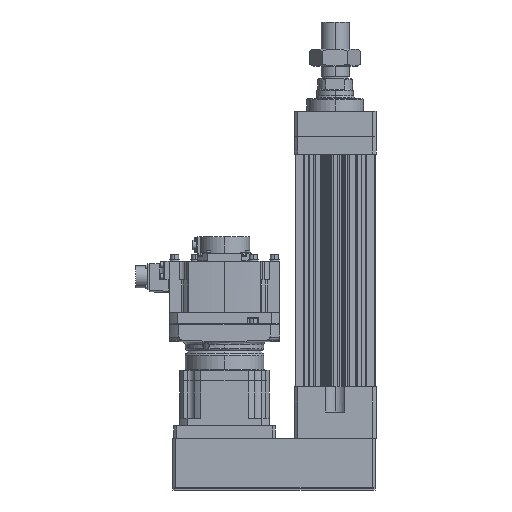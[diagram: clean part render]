
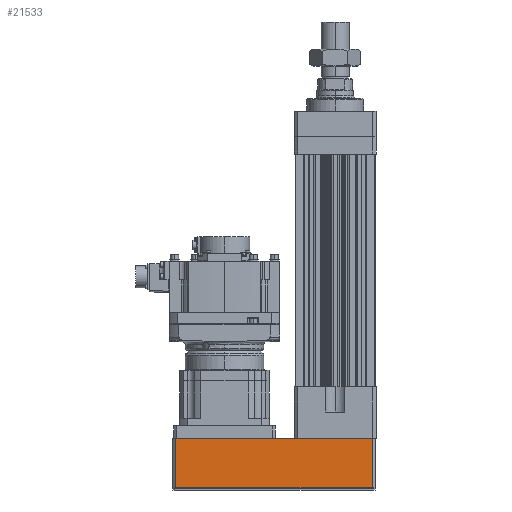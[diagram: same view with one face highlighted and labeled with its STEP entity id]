
A CAD part, left-side view. The second image highlights one B-rep face of the part: STEP entity #21533.
In plain terms, the highlighted planar face has unit normal (-1, 0, 0).
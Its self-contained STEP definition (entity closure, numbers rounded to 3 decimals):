
#393 = LINE ( 'NONE', #30883, #50049 ) ;
#2494 = EDGE_CURVE ( 'NONE', #44918, #8651, #48894, .T. ) ;
#3152 = DIRECTION ( 'NONE',  ( 0., -1., 0. ) ) ;
#3487 = CARTESIAN_POINT ( 'NONE',  ( -63.5, -59., -82.5 ) ) ;
#4142 = AXIS2_PLACEMENT_3D ( 'NONE', #25779, #17537, #14543 ) ;
#4507 = ORIENTED_EDGE ( 'NONE', *, *, #45644, .T. ) ;
#5707 = CARTESIAN_POINT ( 'NONE',  ( -63.5, 254., -82.5 ) ) ;
#5711 = EDGE_LOOP ( 'NONE', ( #10849, #4507, #41178, #11618 ) ) ;
#7498 = CARTESIAN_POINT ( 'NONE',  ( -63.5, 254., -82.5 ) ) ;
#8651 = VERTEX_POINT ( 'NONE', #5707 ) ;
#9730 = FACE_OUTER_BOUND ( 'NONE', #5711, .T. ) ;
#10132 = CARTESIAN_POINT ( 'NONE',  ( -63.5, 254., -160.5 ) ) ;
#10522 = DIRECTION ( 'NONE',  ( 0., 0., 1. ) ) ;
#10849 = ORIENTED_EDGE ( 'NONE', *, *, #2494, .F. ) ;
#11618 = ORIENTED_EDGE ( 'NONE', *, *, #30587, .T. ) ;
#12850 = EDGE_CURVE ( 'NONE', #48011, #43974, #393, .T. ) ;
#14543 = DIRECTION ( 'NONE',  ( 0., 0., -1. ) ) ;
#14710 = PLANE ( 'NONE',  #4142 ) ;
#17537 = DIRECTION ( 'NONE',  ( 1., 0., 0. ) ) ;
#21533 = ADVANCED_FACE ( 'NONE', ( #9730 ), #14710, .F. ) ;
#23380 = CARTESIAN_POINT ( 'NONE',  ( -63.5, 254., -161. ) ) ;
#25770 = CARTESIAN_POINT ( 'NONE',  ( -63.5, -59., -160.5 ) ) ;
#25779 = CARTESIAN_POINT ( 'NONE',  ( -63.5, -59., -161. ) ) ;
#26823 = DIRECTION ( 'NONE',  ( 0., 1., 0. ) ) ;
#27410 = CARTESIAN_POINT ( 'NONE',  ( -63.5, -59., -160.5 ) ) ;
#27849 = LINE ( 'NONE', #7498, #34765 ) ;
#30587 = EDGE_CURVE ( 'NONE', #43974, #8651, #27849, .T. ) ;
#30883 = CARTESIAN_POINT ( 'NONE',  ( -63.5, -59., -161. ) ) ;
#34765 = VECTOR ( 'NONE', #26823, 1000. ) ;
#41178 = ORIENTED_EDGE ( 'NONE', *, *, #12850, .T. ) ;
#41978 = VECTOR ( 'NONE', #43572, 1000. ) ;
#43572 = DIRECTION ( 'NONE',  ( 0., 0., 1. ) ) ;
#43974 = VERTEX_POINT ( 'NONE', #3487 ) ;
#44918 = VERTEX_POINT ( 'NONE', #10132 ) ;
#45644 = EDGE_CURVE ( 'NONE', #44918, #48011, #48002, .T. ) ;
#48002 = LINE ( 'NONE', #27410, #51733 ) ;
#48011 = VERTEX_POINT ( 'NONE', #25770 ) ;
#48894 = LINE ( 'NONE', #23380, #41978 ) ;
#50049 = VECTOR ( 'NONE', #10522, 1000. ) ;
#51733 = VECTOR ( 'NONE', #3152, 1000. ) ;
